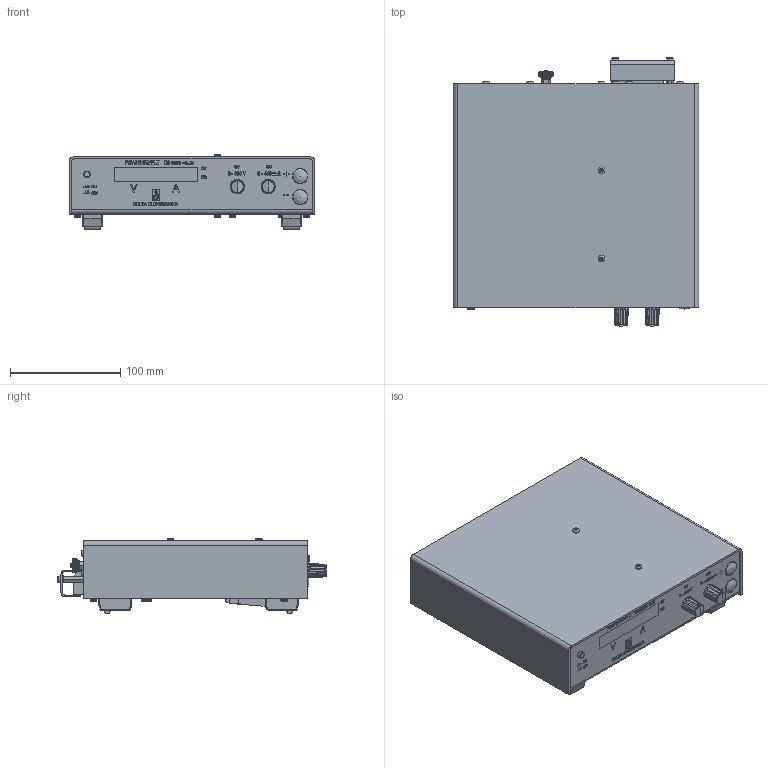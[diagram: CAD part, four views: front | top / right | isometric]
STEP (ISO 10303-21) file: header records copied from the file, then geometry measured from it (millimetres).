
FILE_DESCRIPTION(/* description */ (''),/* implementation_level */ '2;1');
FILE_NAME(/* name */ 'A:\Data\ES150\option\P150\step file\ES150-P122,P150.stp',/* time_stamp */ '2021-02-15T16:13:19+01:00',/* author */ ('Delta'),/* organization */ (''),/* preprocessor_version */ 'ST-DEVELOPER v17.2',/* originating_system */ 'Autodesk Inventor 2019',/* authorisation */ '');
FILE_SCHEMA (('AUTOMOTIVE_DESIGN { 1 0 10303 214 3 1 1 }'));
Products named in the file (1): assembly ES150-P122,P150_Shrinkwrap_1
Bounding box: 222 x 243.2 x 68.2 mm (x, y, z)
Volume: 2329628 mm3; surface area: 172574.6 mm2
Topology: 1 solids, 1 shells, 3591 faces, 8567 edges, 5500 vertices
Faces by surface type: plane 2022, cylinder 695, bspline 465, cone 247, torus 94, sphere 68
Full cylindrical faces by diameter (mm): 2.459 x1, 3.5 x350, 3.9 x4, 4 x2, 4.5 x2, 4.75 x4, 5 x1, 5.8 x1, 6 x35, 6.2 x2, 6.4 x2, 6.9 x8, 7.1 x4, 7.8 x2, 8 x4, 8.3 x2, 8.8 x2, 9 x2, 9.8 x4, 10 x2, 10.5 x1, 10.7 x2
Entity records: 113925 total; most frequent: CARTESIAN_POINT 30254, ORIENTED_EDGE 17080, DIRECTION 15665, EDGE_CURVE 8540, AXIS2_PLACEMENT_3D 5559, VERTEX_POINT 5502, LINE 4547, VECTOR 4547
